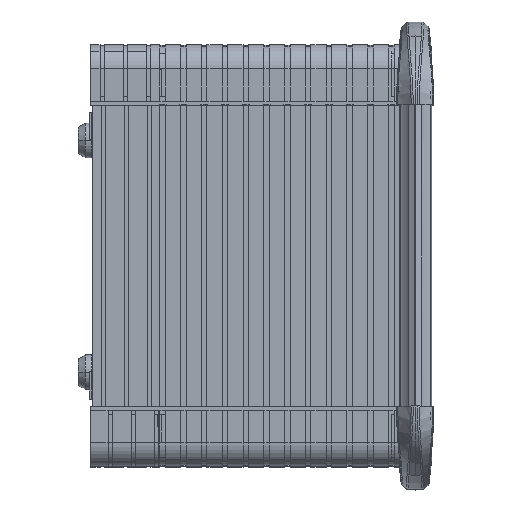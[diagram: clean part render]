
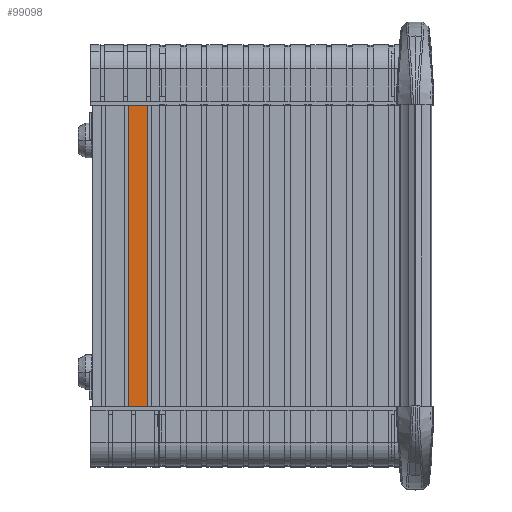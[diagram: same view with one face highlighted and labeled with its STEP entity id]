
A CAD part, top view. The second image highlights one B-rep face of the part: STEP entity #99098.
In plain terms, the highlighted planar face has unit normal (0, 0, 1).
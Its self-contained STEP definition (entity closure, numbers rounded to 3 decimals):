
#1749 = LINE ( 'NONE', #37927, #6076 ) ;
#6076 = VECTOR ( 'NONE', #264711, 1000. ) ;
#8353 = CARTESIAN_POINT ( 'NONE',  ( -160.253, 27.475, 492.404 ) ) ;
#19460 = VECTOR ( 'NONE', #270404, 1000. ) ;
#31448 = VERTEX_POINT ( 'NONE', #104515 ) ;
#37927 = CARTESIAN_POINT ( 'NONE',  ( -106.503, 244.645, 492.404 ) ) ;
#57363 = AXIS2_PLACEMENT_3D ( 'NONE', #268122, #241767, #73510 ) ;
#66910 = ORIENTED_EDGE ( 'NONE', *, *, #252883, .T. ) ;
#72321 = PLANE ( 'NONE',  #57363 ) ;
#73510 = DIRECTION ( 'NONE',  ( 0., -1., 0. ) ) ;
#75982 = CARTESIAN_POINT ( 'NONE',  ( -146.583, 27.475, 492.404 ) ) ;
#76533 = CARTESIAN_POINT ( 'NONE',  ( -146.583, 244.645, 492.404 ) ) ;
#99098 = ADVANCED_FACE ( 'NONE', ( #118921 ), #72321, .T. ) ;
#104004 = DIRECTION ( 'NONE',  ( 0., 1., 0. ) ) ;
#104515 = CARTESIAN_POINT ( 'NONE',  ( -146.583, 244.645, 492.404 ) ) ;
#109467 = VERTEX_POINT ( 'NONE', #247396 ) ;
#118921 = FACE_OUTER_BOUND ( 'NONE', #358628, .T. ) ;
#122693 = EDGE_CURVE ( 'NONE', #315647, #357254, #316124, .T. ) ;
#125938 = CARTESIAN_POINT ( 'NONE',  ( -146.583, 27.475, 492.404 ) ) ;
#135234 = LINE ( 'NONE', #156873, #19460 ) ;
#140256 = EDGE_CURVE ( 'NONE', #109467, #315647, #135234, .T. ) ;
#156873 = CARTESIAN_POINT ( 'NONE',  ( -160.253, 244.645, 492.404 ) ) ;
#229671 = ORIENTED_EDGE ( 'NONE', *, *, #140256, .T. ) ;
#241767 = DIRECTION ( 'NONE',  ( 0., 0., 1. ) ) ;
#247396 = CARTESIAN_POINT ( 'NONE',  ( -160.253, 244.645, 492.404 ) ) ;
#252883 = EDGE_CURVE ( 'NONE', #357254, #31448, #317298, .T. ) ;
#260551 = ORIENTED_EDGE ( 'NONE', *, *, #355499, .F. ) ;
#264711 = DIRECTION ( 'NONE',  ( 1., 0., 0. ) ) ;
#268122 = CARTESIAN_POINT ( 'NONE',  ( -146.583, 244.645, 492.404 ) ) ;
#270404 = DIRECTION ( 'NONE',  ( 0., -1., 0. ) ) ;
#272766 = VECTOR ( 'NONE', #104004, 1000. ) ;
#307224 = VECTOR ( 'NONE', #332574, 1000. ) ;
#315647 = VERTEX_POINT ( 'NONE', #8353 ) ;
#316124 = LINE ( 'NONE', #75982, #307224 ) ;
#316597 = ORIENTED_EDGE ( 'NONE', *, *, #122693, .T. ) ;
#317298 = LINE ( 'NONE', #76533, #272766 ) ;
#332574 = DIRECTION ( 'NONE',  ( 1., 0., 0. ) ) ;
#355499 = EDGE_CURVE ( 'NONE', #109467, #31448, #1749, .T. ) ;
#357254 = VERTEX_POINT ( 'NONE', #125938 ) ;
#358628 = EDGE_LOOP ( 'NONE', ( #229671, #316597, #66910, #260551 ) ) ;
